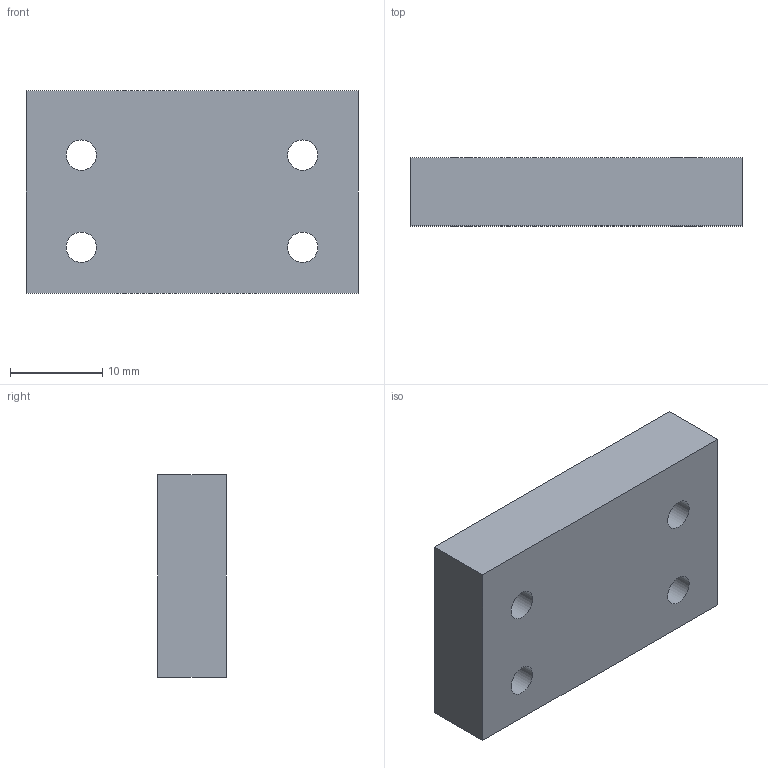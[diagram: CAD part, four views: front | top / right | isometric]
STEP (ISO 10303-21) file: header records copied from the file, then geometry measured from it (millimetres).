
FILE_DESCRIPTION(('Open CASCADE Model'),'2;1');
FILE_NAME('Open CASCADE Shape Model','2026-10-15T19:33:12',('Author'),( 'Open CASCADE'),'Open CASCADE STEP processor 7.9','Open CASCADE 7.9' ,'Unknown');
FILE_SCHEMA(('AUTOMOTIVE_DESIGN { 1 0 10303 214 1 1 1 1 }'));
Length unit declared in the file: millimetre
Products named in the file (1): Open CASCADE STEP translator 7.9 6
Bounding box: 36 x 7.4 x 22 mm (x, y, z)
Volume: 5607.6 mm3; surface area: 2680.8 mm2
Topology: 1 solids, 1 shells, 10 faces, 24 edges, 16 vertices
Faces by surface type: plane 6, cylinder 4
Full cylindrical faces by diameter (mm): 3.3 x4
Entity records: 658 total; most frequent: CARTESIAN_POINT 147, DIRECTION 94, LINE 56, VECTOR 56, ORIENTED_EDGE 48, PCURVE 48, DEFINITIONAL_REPRESENTATION 48, EDGE_CURVE 24
